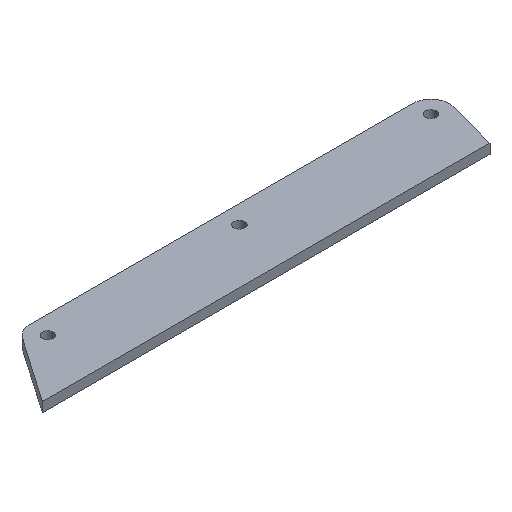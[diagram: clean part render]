
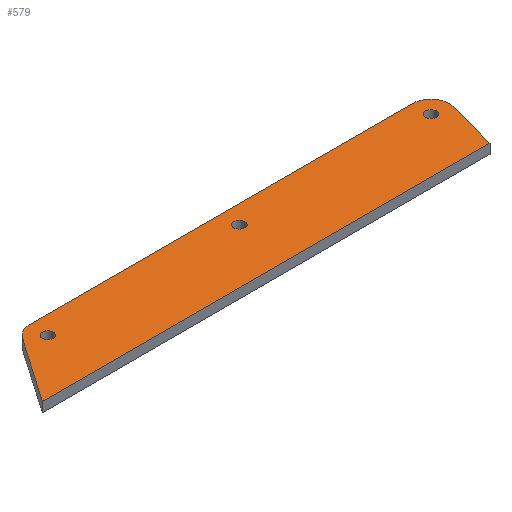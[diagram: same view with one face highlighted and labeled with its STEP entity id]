
A CAD part, isometric view. The second image highlights one B-rep face of the part: STEP entity #579.
In plain terms, the highlighted planar face has unit normal (0, 0, 1).
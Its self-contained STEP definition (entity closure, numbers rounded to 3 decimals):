
#267=PLANE('',#561);
#269=CIRCLE('',#547,15.);
#271=CIRCLE('',#553,15.);
#275=CIRCLE('',#560,4.5);
#276=CIRCLE('',#562,4.5);
#277=CIRCLE('',#563,4.5);
#313=ORIENTED_EDGE('',*,*,#375,.T.);
#314=ORIENTED_EDGE('',*,*,#389,.F.);
#315=ORIENTED_EDGE('',*,*,#387,.F.);
#316=ORIENTED_EDGE('',*,*,#384,.F.);
#317=ORIENTED_EDGE('',*,*,#381,.F.);
#318=ORIENTED_EDGE('',*,*,#378,.F.);
#319=ORIENTED_EDGE('',*,*,#393,.F.);
#320=ORIENTED_EDGE('',*,*,#394,.F.);
#321=ORIENTED_EDGE('',*,*,#395,.F.);
#330=VECTOR('',#448,1.);
#333=VECTOR('',#453,1.);
#336=VECTOR('',#458,1.);
#339=VECTOR('',#469,1.);
#344=LINE('',#506,#330);
#347=LINE('',#512,#333);
#350=LINE('',#518,#336);
#353=LINE('',#527,#339);
#355=VERTEX_POINT('',#494);
#357=VERTEX_POINT('',#498);
#359=VERTEX_POINT('',#503);
#361=VERTEX_POINT('',#509);
#363=VERTEX_POINT('',#515);
#365=VERTEX_POINT('',#521);
#369=VERTEX_POINT('',#536);
#370=VERTEX_POINT('',#539);
#371=VERTEX_POINT('',#541);
#375=EDGE_CURVE('',#355,#357,#269,.T.);
#378=EDGE_CURVE('',#355,#359,#344,.T.);
#381=EDGE_CURVE('',#359,#361,#347,.T.);
#384=EDGE_CURVE('',#361,#363,#350,.T.);
#387=EDGE_CURVE('',#363,#365,#271,.T.);
#389=EDGE_CURVE('',#365,#357,#353,.T.);
#393=EDGE_CURVE('',#369,#369,#275,.T.);
#394=EDGE_CURVE('',#370,#370,#276,.T.);
#395=EDGE_CURVE('',#371,#371,#277,.T.);
#408=EDGE_LOOP('',(#313,#314,#315,#316,#317,#318));
#409=EDGE_LOOP('',(#319));
#410=EDGE_LOOP('',(#320));
#411=EDGE_LOOP('',(#321));
#428=FACE_BOUND('',#408,.T.);
#429=FACE_BOUND('',#409,.T.);
#430=FACE_BOUND('',#410,.T.);
#431=FACE_BOUND('',#411,.T.);
#442=DIRECTION('',(0.,0.,1.));
#443=DIRECTION('',(0.,15.,0.));
#448=DIRECTION('',(-10.877,-41.168,0.));
#453=DIRECTION('',(-368.171,0.,0.));
#458=DIRECTION('',(37.123,53.546,0.));
#464=DIRECTION('',(0.,0.,-1.));
#465=DIRECTION('',(0.,-15.,0.));
#469=DIRECTION('',(315.096,0.,0.));
#480=DIRECTION('',(0.,0.,1.));
#481=DIRECTION('',(0.,-4.5,0.));
#482=DIRECTION('',(0.,0.,1.));
#483=DIRECTION('',(0.,-1.,0.));
#484=DIRECTION('',(0.,0.,1.));
#485=DIRECTION('',(0.,-4.5,0.));
#486=DIRECTION('',(0.,0.,1.));
#487=DIRECTION('',(0.,-4.5,0.));
#494=CARTESIAN_POINT('',(5646.164,12987.528,8.));
#498=CARTESIAN_POINT('',(5631.662,13006.36,8.));
#500=CARTESIAN_POINT('',(5631.662,12991.36,8.));
#503=CARTESIAN_POINT('',(5635.287,12946.36,8.));
#506=CARTESIAN_POINT('',(5646.164,12987.528,8.));
#509=CARTESIAN_POINT('',(5267.116,12946.36,8.));
#512=CARTESIAN_POINT('',(5635.287,12946.36,8.));
#515=CARTESIAN_POINT('',(5304.239,12999.906,8.));
#518=CARTESIAN_POINT('',(5267.116,12946.36,8.));
#521=CARTESIAN_POINT('',(5316.566,13006.36,8.));
#524=CARTESIAN_POINT('',(5316.566,12991.36,8.));
#527=CARTESIAN_POINT('',(5316.566,13006.36,8.));
#536=CARTESIAN_POINT('',(5316.566,12986.86,8.));
#537=CARTESIAN_POINT('',(5316.566,12991.36,8.));
#538=CARTESIAN_POINT('',(0.,0.,8.));
#539=CARTESIAN_POINT('',(5631.662,12986.86,8.));
#540=CARTESIAN_POINT('',(5631.662,12991.36,8.));
#541=CARTESIAN_POINT('',(5474.114,12986.86,8.));
#542=CARTESIAN_POINT('',(5474.114,12991.36,8.));
#547=AXIS2_PLACEMENT_3D('',#500,#442,#443);
#553=AXIS2_PLACEMENT_3D('',#524,#464,#465);
#560=AXIS2_PLACEMENT_3D('',#537,#480,#481);
#561=AXIS2_PLACEMENT_3D('',#538,#482,#483);
#562=AXIS2_PLACEMENT_3D('',#540,#484,#485);
#563=AXIS2_PLACEMENT_3D('',#542,#486,#487);
#579=ADVANCED_FACE('',(#428,#429,#430,#431),#267,.T.);
